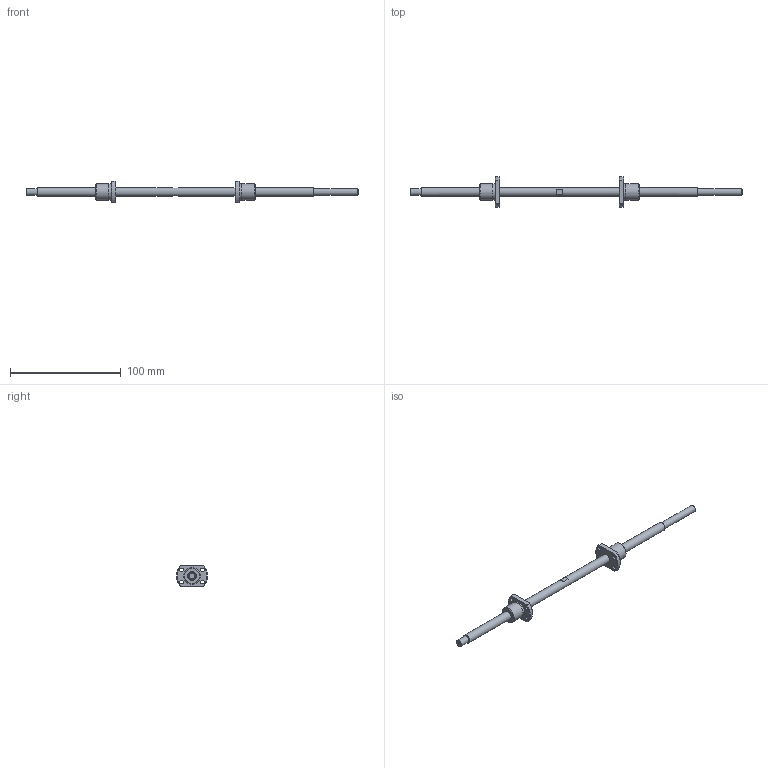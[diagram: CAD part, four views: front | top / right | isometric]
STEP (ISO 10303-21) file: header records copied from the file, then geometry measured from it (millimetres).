
FILE_DESCRIPTION( ( 'STEP AP214' ), ' ' );
FILE_NAME( 'p:/temp/worker_8/904_3764/app_76_12015091122105051928901260eae72_000000_00_00_000000/format_0/SD0802-120L120R300C3(53)(53).stp', '2015-09-11T20:10:50', ( '' ), ( '' ), ' ', 'PARTsolutions', ' ' );
FILE_SCHEMA( ( 'AUTOMOTIVE_DESIGN { 1 0 10303 214 1 1 1 1 }' ) );
Length unit declared in the file: millimetre
Products named in the file (3): SD0802-120L120R300C3(53)(53); _SD0802-120L120R300C3_(5353)Shaft; _SD0802C3_n
Assembly tree (3 placements, depth 2):
  SD0802-120L120R300C3(53)(53)
    _SD0802-120L120R300C3_(5353)Shaft
    _SD0802C3_n  x2
Bounding box: 300 x 27.9 x 19 mm (x, y, z)
Volume: 20791.8 mm3; surface area: 12133.5 mm2
Topology: 3 solids, 3 shells, 57 faces, 126 edges, 82 vertices
Faces by surface type: plane 22, cylinder 21, cone 14
Full cylindrical faces by diameter (mm): 3.4 x8, 6.3 x2, 8 x3, 14.7 x2, 15 x2
Entity records: 1298 total; most frequent: CARTESIAN_POINT 175, DIRECTION 172, ORIENTED_EDGE 122, AXIS2_PLACEMENT_3D 78, EDGE_LOOP 68, EDGE_CURVE 61, VERTEX_POINT 49, FACE_OUTER_BOUND 47
